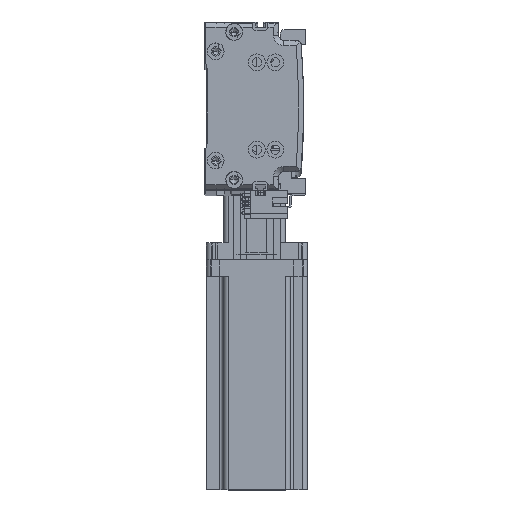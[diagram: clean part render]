
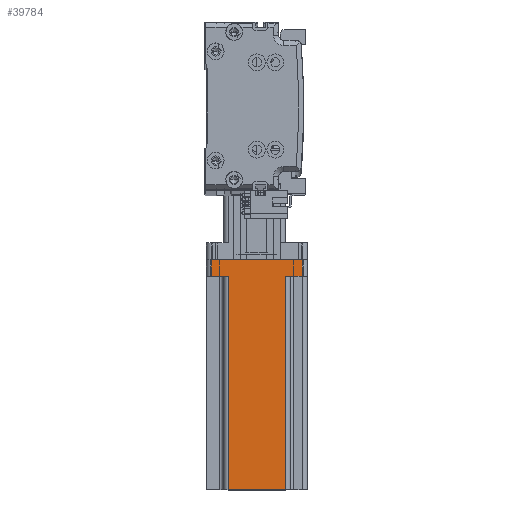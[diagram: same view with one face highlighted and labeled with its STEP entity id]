
A CAD part, top view. The second image highlights one B-rep face of the part: STEP entity #39784.
In plain terms, the highlighted planar face has unit normal (0, 0, 1) as drawn and (0, 1, 0) by its records, which use the part's own axes.
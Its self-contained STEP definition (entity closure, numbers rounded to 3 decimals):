
#935 = VERTEX_POINT ( 'NONE', #25095 ) ;
#1293 = DIRECTION ( 'NONE',  ( 0., 0., -1. ) ) ;
#2672 = ORIENTED_EDGE ( 'NONE', *, *, #41559, .T. ) ;
#3211 = CARTESIAN_POINT ( 'NONE',  ( 20., 30., 10. ) ) ;
#3925 = DIRECTION ( 'NONE',  ( 0., 0., 1. ) ) ;
#5066 = VERTEX_POINT ( 'NONE', #62659 ) ;
#5800 = CARTESIAN_POINT ( 'NONE',  ( 27., 30., 0. ) ) ;
#7161 = LINE ( 'NONE', #36079, #21916 ) ;
#7585 = CARTESIAN_POINT ( 'NONE',  ( -27., 30., 137. ) ) ;
#8325 = CARTESIAN_POINT ( 'NONE',  ( -20., 30., 10. ) ) ;
#9245 = LINE ( 'NONE', #17244, #47411 ) ;
#12954 = EDGE_CURVE ( 'NONE', #59464, #40037, #31925, .T. ) ;
#13155 = VERTEX_POINT ( 'NONE', #19683 ) ;
#13293 = DIRECTION ( 'NONE',  ( 1., 0., 0. ) ) ;
#13464 = VECTOR ( 'NONE', #3925, 1000. ) ;
#14267 = DIRECTION ( 'NONE',  ( -1., 0., 0. ) ) ;
#15173 = DIRECTION ( 'NONE',  ( -1., 0., 0. ) ) ;
#17237 = EDGE_CURVE ( 'NONE', #13155, #20766, #9245, .T. ) ;
#17244 = CARTESIAN_POINT ( 'NONE',  ( 27., 30., 137. ) ) ;
#19062 = VERTEX_POINT ( 'NONE', #59369 ) ;
#19130 = LINE ( 'NONE', #50003, #44076 ) ;
#19683 = CARTESIAN_POINT ( 'NONE',  ( 27., 30., 10. ) ) ;
#20766 = VERTEX_POINT ( 'NONE', #5800 ) ;
#20793 = ORIENTED_EDGE ( 'NONE', *, *, #53663, .T. ) ;
#21187 = ORIENTED_EDGE ( 'NONE', *, *, #39941, .F. ) ;
#21459 = DIRECTION ( 'NONE',  ( 0., -1., 0. ) ) ;
#21916 = VECTOR ( 'NONE', #1293, 1000. ) ;
#22206 = DIRECTION ( 'NONE',  ( 0., 0., -1. ) ) ;
#22541 = ORIENTED_EDGE ( 'NONE', *, *, #12954, .T. ) ;
#23442 = LINE ( 'NONE', #3211, #61635 ) ;
#25095 = CARTESIAN_POINT ( 'NONE',  ( 17., 30., 10. ) ) ;
#27559 = DIRECTION ( 'NONE',  ( 0., 0., 1. ) ) ;
#31634 = AXIS2_PLACEMENT_3D ( 'NONE', #51330, #21459, #56368 ) ;
#31925 = LINE ( 'NONE', #7585, #42094 ) ;
#31958 = ORIENTED_EDGE ( 'NONE', *, *, #52301, .F. ) ;
#33254 = VECTOR ( 'NONE', #13293, 1000. ) ;
#33675 = CARTESIAN_POINT ( 'NONE',  ( -17., 30., 137. ) ) ;
#34805 = LINE ( 'NONE', #8325, #33254 ) ;
#35662 = CARTESIAN_POINT ( 'NONE',  ( 17., 30., 137. ) ) ;
#36055 = LINE ( 'NONE', #44281, #49340 ) ;
#36079 = CARTESIAN_POINT ( 'NONE',  ( 17., 30., 137. ) ) ;
#39784 = ADVANCED_FACE ( 'NONE', ( #51641 ), #46117, .F. ) ;
#39941 = EDGE_CURVE ( 'NONE', #13155, #935, #23442, .T. ) ;
#40037 = VERTEX_POINT ( 'NONE', #43641 ) ;
#41559 = EDGE_CURVE ( 'NONE', #20766, #59464, #36055, .T. ) ;
#42094 = VECTOR ( 'NONE', #27559, 1000. ) ;
#42316 = ORIENTED_EDGE ( 'NONE', *, *, #50069, .T. ) ;
#43641 = CARTESIAN_POINT ( 'NONE',  ( -27., 30., 10. ) ) ;
#44076 = VECTOR ( 'NONE', #15173, 1000. ) ;
#44281 = CARTESIAN_POINT ( 'NONE',  ( 30., 30., 0. ) ) ;
#45338 = EDGE_LOOP ( 'NONE', ( #49357, #42316, #31958, #20793, #21187, #48404, #2672, #22541 ) ) ;
#45992 = CARTESIAN_POINT ( 'NONE',  ( -27., 30., 0. ) ) ;
#46117 = PLANE ( 'NONE',  #31634 ) ;
#47411 = VECTOR ( 'NONE', #22206, 1000. ) ;
#48404 = ORIENTED_EDGE ( 'NONE', *, *, #17237, .T. ) ;
#49340 = VECTOR ( 'NONE', #14267, 1000. ) ;
#49357 = ORIENTED_EDGE ( 'NONE', *, *, #60347, .T. ) ;
#50003 = CARTESIAN_POINT ( 'NONE',  ( 30., 30., 137. ) ) ;
#50069 = EDGE_CURVE ( 'NONE', #5066, #19062, #51675, .T. ) ;
#51330 = CARTESIAN_POINT ( 'NONE',  ( 30., 30., 137. ) ) ;
#51641 = FACE_OUTER_BOUND ( 'NONE', #45338, .T. ) ;
#51675 = LINE ( 'NONE', #33675, #13464 ) ;
#52301 = EDGE_CURVE ( 'NONE', #64507, #19062, #19130, .T. ) ;
#53663 = EDGE_CURVE ( 'NONE', #64507, #935, #7161, .T. ) ;
#56368 = DIRECTION ( 'NONE',  ( 1., 0., 0. ) ) ;
#59369 = CARTESIAN_POINT ( 'NONE',  ( -17., 30., 137. ) ) ;
#59464 = VERTEX_POINT ( 'NONE', #45992 ) ;
#60347 = EDGE_CURVE ( 'NONE', #40037, #5066, #34805, .T. ) ;
#61635 = VECTOR ( 'NONE', #62786, 1000. ) ;
#62659 = CARTESIAN_POINT ( 'NONE',  ( -17., 30., 10. ) ) ;
#62786 = DIRECTION ( 'NONE',  ( -1., 0., 0. ) ) ;
#64507 = VERTEX_POINT ( 'NONE', #35662 ) ;
